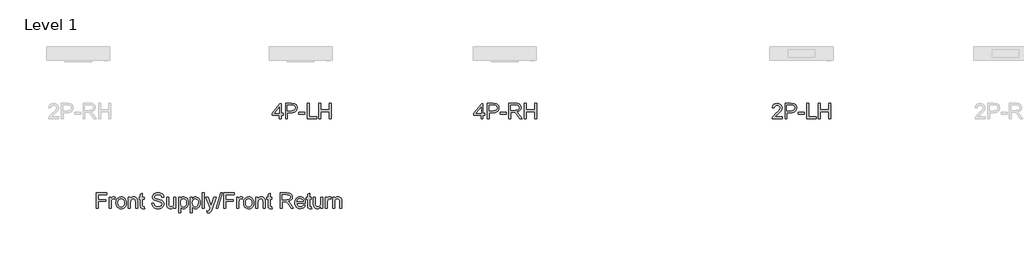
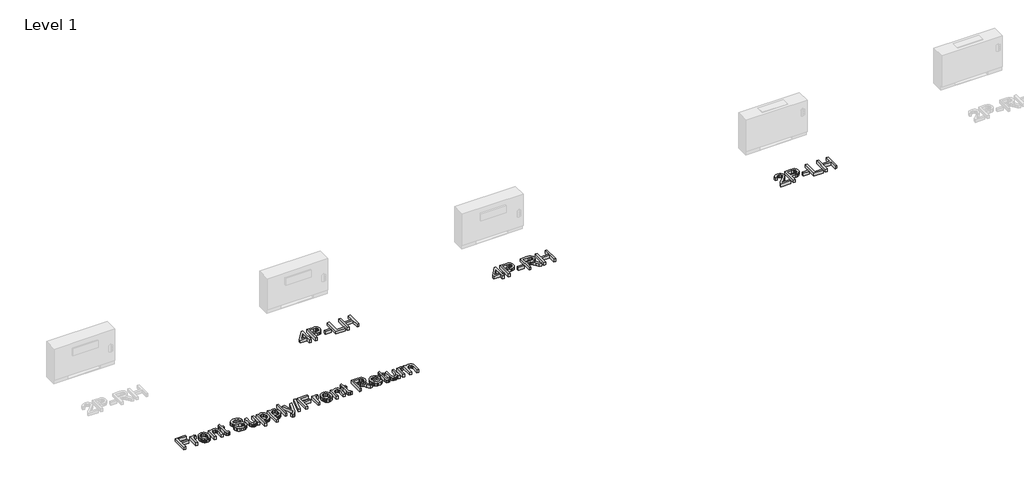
# One storey, part 2 of 3: 4 proxies.
"""IFC4 building model written with IfcOpenShell, lengths in millimetres."""

from ifc_helpers import new_model, si_unit, origin, origin_with_axes, place, context, project, spatial, polyline, outline, extrude, element, save

model = new_model("IFC4")

# Units and contexts
model_context = context("Model", 3, world=origin())
ifc_project = project(units=[si_unit("LENGTHUNIT", "METRE", prefix="MILLI")], contexts=[model_context])

# Site, building, storey
site = spatial("IfcSite", under=ifc_project)
building = spatial("IfcBuilding", under=site)
storey = spatial("IfcBuildingStorey", under=building, Name="Level 1", Elevation=0.0)

# Proxies
placement = place(None, origin())
element("IfcBuildingElementProxy", 1, Name="24\" Arial", ObjectType="24\" Arial", at=placement, inside=storey, context=model_context, shape_type="SweptSolid", body=[
    extrude(outline(polyline([(-12745.6761517, -2291.4337764), (-12745.6761517, -2231.6308793), (-12861.2950862, -2231.6308793), (-12861.2950862, -2199.7360008), (-12737.7024321, -2040.2616085), (-12713.7812732, -2040.2616085), (-12713.7812732, -2199.7360008), (-12681.8863947, -2199.7360008), (-12681.8863947, -2231.6308793), (-12713.7812732, -2231.6308793), (-12713.7812732, -2291.4337764), (-12745.6761517, -2291.4337764)]), holes=[polyline([(-12745.6761517, -2199.7360008), (-12745.6761517, -2101.1858099), (-12822.0494349, -2199.7360008), (-12745.6761517, -2199.7360008)])]), origin_with_axes(), (0.0, 0.0, 1.0), 50.8),
    extrude(outline(polyline([(-12642.0177967, -2291.4337764), (-12642.0177967, -2036.2747487), (-12547.4544656, -2036.2747487), (-12509.3301186, -2038.7042414), (-12492.3314566, -2043.2439665), (-12478.3385131, -2050.6336734), (-12467.070962, -2061.2081961), (-12458.2484773, -2075.3023685), (-12452.5485137, -2091.9272624), (-12450.6485258, -2110.0939498), (-12455.7800505, -2140.1667088), (-12471.1746244, -2165.2247456), (-12483.5031318, -2175.0906663), (-12499.9625555, -2182.1377525), (-12520.5528954, -2186.3660042), (-12545.2741516, -2187.7754214), (-12610.1229182, -2187.7754214), (-12610.1229182, -2291.4337764), (-12642.0177967, -2291.4337764)]), holes=[polyline([(-12610.1229182, -2155.8805429), (-12543.4053111, -2155.8805429), (-12515.1235243, -2152.9526928), (-12496.4351189, -2144.1691422), (-12486.016333, -2130.0749699), (-12482.5434043, -2111.2152541), (-12484.591342, -2096.8874767), (-12490.7351553, -2084.8023079), (-12500.2117342, -2075.707284), (-12512.2579688, -2070.3499411), (-12544.1528473, -2068.1696271), (-12610.1229182, -2068.1696271), (-12610.1229182, -2155.8805429)])]), origin_with_axes(), (0.0, 0.0, 1.0), 50.8),
    extrude(outline(polyline([(-12426.727367, -2215.6834401), (-12426.727367, -2183.7885616), (-12327.0558717, -2183.7885616), (-12327.0558717, -2215.6834401), (-12426.727367, -2215.6834401)])), origin_with_axes(), (0.0, 0.0, 1.0), 50.8),
    extrude(outline(polyline([(-12287.1872736, -2291.4337764), (-12287.1872736, -2036.2747487), (-12255.2923952, -2036.2747487), (-12255.2923952, -2259.538898), (-12127.7128813, -2259.538898), (-12127.7128813, -2291.4337764), (-12287.1872736, -2291.4337764)])), origin_with_axes(), (0.0, 0.0, 1.0), 50.8),
    extrude(outline(polyline([(-12091.831143, -2291.4337764), (-12091.831143, -2036.2747487), (-12059.9362645, -2036.2747487), (-12059.9362645, -2139.9331037), (-11924.383031, -2139.9331037), (-11924.383031, -2036.2747487), (-11892.4881526, -2036.2747487), (-11892.4881526, -2291.4337764), (-11924.383031, -2291.4337764), (-11924.383031, -2171.8279822), (-12059.9362645, -2171.8279822), (-12059.9362645, -2291.4337764), (-12091.831143, -2291.4337764)])), origin_with_axes(), (0.0, 0.0, 1.0), 50.8),
])
element("IfcBuildingElementProxy", 2, Name="24\" Arial", ObjectType="24\" Arial", at=placement, inside=storey, context=model_context, shape_type="SweptSolid", body=[
    extrude(outline(polyline([(-9428.2210372, -2291.4337764), (-9428.2210372, -2231.6308793), (-9543.8399717, -2231.6308793), (-9543.8399717, -2199.7360008), (-9420.2473176, -2040.2616085), (-9396.3261587, -2040.2616085), (-9396.3261587, -2199.7360008), (-9364.4312802, -2199.7360008), (-9364.4312802, -2231.6308793), (-9396.3261587, -2231.6308793), (-9396.3261587, -2291.4337764), (-9428.2210372, -2291.4337764)]), holes=[polyline([(-9428.2210372, -2199.7360008), (-9428.2210372, -2101.1858099), (-9504.5943204, -2199.7360008), (-9428.2210372, -2199.7360008)])]), origin_with_axes(), (0.0, 0.0, 1.0), 50.8),
    extrude(outline(polyline([(-9324.5626822, -2291.4337764), (-9324.5626822, -2036.2747487), (-9229.9993511, -2036.2747487), (-9191.8750041, -2038.7042414), (-9174.8763421, -2043.2439665), (-9160.8833986, -2050.6336734), (-9149.6158475, -2061.2081961), (-9140.7933628, -2075.3023685), (-9135.0933992, -2091.9272624), (-9133.1934113, -2110.0939498), (-9138.324936, -2140.1667088), (-9153.7195099, -2165.2247456), (-9166.0480173, -2175.0906663), (-9182.507441, -2182.1377525), (-9203.0977809, -2186.3660042), (-9227.8190371, -2187.7754214), (-9292.6678037, -2187.7754214), (-9292.6678037, -2291.4337764), (-9324.5626822, -2291.4337764)]), holes=[polyline([(-9292.6678037, -2155.8805429), (-9225.9501966, -2155.8805429), (-9197.6684098, -2152.9526928), (-9178.9800044, -2144.1691422), (-9168.5612185, -2130.0749699), (-9165.0882898, -2111.2152541), (-9167.1362275, -2096.8874767), (-9173.2800408, -2084.8023079), (-9182.7566197, -2075.707284), (-9194.8028543, -2070.3499411), (-9226.6977328, -2068.1696271), (-9292.6678037, -2068.1696271), (-9292.6678037, -2155.8805429)])]), origin_with_axes(), (0.0, 0.0, 1.0), 50.8),
    extrude(outline(polyline([(-9109.2722525, -2215.6834401), (-9109.2722525, -2183.7885616), (-9009.6007572, -2183.7885616), (-9009.6007572, -2215.6834401), (-9109.2722525, -2215.6834401)])), origin_with_axes(), (0.0, 0.0, 1.0), 50.8),
    extrude(outline(polyline([(-8969.7321591, -2291.4337764), (-8969.7321591, -2036.2747487), (-8859.782041, -2036.2747487), (-8830.231, -2037.9956393), (-8808.731547, -2043.1583113), (-8793.0177128, -2052.689398), (-8780.8235284, -2067.5155329), (-8772.9977586, -2085.9002517), (-8770.3891687, -2106.10709), (-8774.7108624, -2131.2429952), (-8787.6759436, -2152.0805672), (-8809.6737541, -2167.3583385), (-8841.0936356, -2175.814842), (-8822.9658824, -2189.4573779), (-8797.1135884, -2222.2866766), (-8754.5663188, -2291.4337764), (-8791.6316561, -2291.4337764), (-8824.834723, -2238.5455893), (-8848.8181765, -2203.5359766), (-8865.6688887, -2186.9967378), (-8880.8376443, -2180.9230061), (-8899.3391656, -2179.8017018), (-8937.8372807, -2179.8017018), (-8937.8372807, -2291.4337764), (-8969.7321591, -2291.4337764)]), holes=[polyline([(-8937.8372807, -2147.9068233), (-8866.4475722, -2147.9068233), (-8830.0363291, -2143.3904587), (-8818.060176, -2137.5191847), (-8809.3544939, -2128.9380919), (-8804.0516588, -2118.5582401), (-8802.2840472, -2107.290689), (-8805.655747, -2091.7325915), (-8815.7708464, -2079.1957863), (-8833.1744239, -2070.9261669), (-8858.4115579, -2068.1696271), (-8937.8372807, -2068.1696271), (-8937.8372807, -2147.9068233)])]), origin_with_axes(), (0.0, 0.0, 1.0), 50.8),
    extrude(outline(polyline([(-8714.5731314, -2291.4337764), (-8714.5731314, -2036.2747487), (-8682.6782529, -2036.2747487), (-8682.6782529, -2139.9331037), (-8547.1250194, -2139.9331037), (-8547.1250194, -2036.2747487), (-8515.2301409, -2036.2747487), (-8515.2301409, -2291.4337764), (-8547.1250194, -2291.4337764), (-8547.1250194, -2171.8279822), (-8682.6782529, -2171.8279822), (-8682.6782529, -2291.4337764), (-8714.5731314, -2291.4337764)])), origin_with_axes(), (0.0, 0.0, 1.0), 50.8),
])
element("IfcBuildingElementProxy", 3, Name="24\" Arial", ObjectType="24\" Arial", at=placement, inside=storey, context=model_context, shape_type="SweptSolid", body=[
    extrude(outline(polyline([(-4475.5589267, -2259.538898), (-4475.5589267, -2291.4337764), (-4643.0070387, -2291.4337764), (-4639.5808311, -2269.4437528), (-4631.7161271, -2252.2582067), (-4620.2071842, -2235.5865918), (-4580.2762914, -2198.6146965), (-4545.8584782, -2168.0435801), (-4525.2077903, -2145.4773306), (-4514.8824463, -2127.1626934), (-4511.440665, -2109.3464136), (-4514.6877754, -2093.3756138), (-4524.4291067, -2080.0990592), (-4539.4031915, -2071.1519851), (-4558.3485625, -2068.1696271), (-4578.2439273, -2071.0819036), (-4593.7007959, -2079.8187331), (-4603.6757323, -2093.6948741), (-4607.1253004, -2112.025085), (-4639.0201789, -2108.0382252), (-4631.2878512, -2077.1867827), (-4614.5695152, -2054.6516806), (-4589.7372966, -2040.8689816), (-4557.6633209, -2036.2747487), (-4525.3557402, -2041.3829128), (-4500.5702426, -2056.7074052), (-4484.8019005, -2079.6007017), (-4479.5457865, -2107.4152784), (-4485.2146028, -2137.6593477), (-4504.0587449, -2168.9312793), (-4549.751896, -2212.6310005), (-4586.4434652, -2243.3111326), (-4600.8335373, -2259.538898), (-4475.5589267, -2259.538898)])), origin_with_axes(), (0.0, 0.0, 1.0), 50.8),
    extrude(outline(polyline([(-4431.7034688, -2291.4337764), (-4431.7034688, -2036.2747487), (-4337.1401377, -2036.2747487), (-4299.0157908, -2038.7042414), (-4282.0171288, -2043.2439665), (-4268.0241853, -2050.6336734), (-4256.7566342, -2061.2081961), (-4247.9341495, -2075.3023685), (-4242.2341859, -2091.9272624), (-4240.334198, -2110.0939498), (-4245.4657226, -2140.1667088), (-4260.8602965, -2165.2247456), (-4273.188804, -2175.0906663), (-4289.6482276, -2182.1377525), (-4310.2385676, -2186.3660042), (-4334.9598238, -2187.7754214), (-4399.8085904, -2187.7754214), (-4399.8085904, -2291.4337764), (-4431.7034688, -2291.4337764)]), holes=[polyline([(-4399.8085904, -2155.8805429), (-4333.0909832, -2155.8805429), (-4304.8091965, -2152.9526928), (-4286.1207911, -2144.1691422), (-4275.7020051, -2130.0749699), (-4272.2290765, -2111.2152541), (-4274.2770142, -2096.8874767), (-4280.4208275, -2084.8023079), (-4289.8974064, -2075.707284), (-4301.943641, -2070.3499411), (-4333.8385195, -2068.1696271), (-4399.8085904, -2068.1696271), (-4399.8085904, -2155.8805429)])]), origin_with_axes(), (0.0, 0.0, 1.0), 50.8),
    extrude(outline(polyline([(-4216.4130391, -2215.6834401), (-4216.4130391, -2183.7885616), (-4116.7415439, -2183.7885616), (-4116.7415439, -2215.6834401), (-4216.4130391, -2215.6834401)])), origin_with_axes(), (0.0, 0.0, 1.0), 50.8),
    extrude(outline(polyline([(-4076.8729458, -2291.4337764), (-4076.8729458, -2036.2747487), (-4044.9780674, -2036.2747487), (-4044.9780674, -2259.538898), (-3917.3985535, -2259.538898), (-3917.3985535, -2291.4337764), (-4076.8729458, -2291.4337764)])), origin_with_axes(), (0.0, 0.0, 1.0), 50.8),
    extrude(outline(polyline([(-3881.5168152, -2291.4337764), (-3881.5168152, -2036.2747487), (-3849.6219367, -2036.2747487), (-3849.6219367, -2139.9331037), (-3714.0687032, -2139.9331037), (-3714.0687032, -2036.2747487), (-3682.1738247, -2036.2747487), (-3682.1738247, -2291.4337764), (-3714.0687032, -2291.4337764), (-3714.0687032, -2171.8279822), (-3849.6219367, -2171.8279822), (-3849.6219367, -2291.4337764), (-3881.5168152, -2291.4337764)])), origin_with_axes(), (0.0, 0.0, 1.0), 50.8),
])
element("IfcBuildingElementProxy", 4, Name="24\" Arial", ObjectType="24\" Arial", at=placement, inside=storey, context=model_context, shape_type="SweptSolid", body=[
    extrude(outline(polyline([(-15751.2981561, -3763.7936295), (-15751.2981561, -3508.6346017), (-15579.8631843, -3508.6346017), (-15579.8631843, -3540.5294801), (-15719.4032777, -3540.5294801), (-15719.4032777, -3616.2798165), (-15599.7974834, -3616.2798165), (-15599.7974834, -3648.174695), (-15719.4032777, -3648.174695), (-15719.4032777, -3763.7936295), (-15751.2981561, -3763.7936295)])), origin_with_axes(), (0.0, 0.0, 1.0), 50.8),
    extrude(outline(polyline([(-15539.9945863, -3763.7936295), (-15539.9945863, -3576.4112184), (-15512.0865676, -3576.4112184), (-15512.0865676, -3604.132353), (-15501.7767973, -3588.0603244), (-15492.2768579, -3578.5915324), (-15482.7457712, -3573.9661521), (-15472.3425589, -3572.4243586), (-15456.4574143, -3574.8849987), (-15440.323091, -3582.2669188), (-15450.9754821, -3610.860179), (-15473.4015685, -3604.3192371), (-15482.9248684, -3605.8921779), (-15491.4358797, -3610.6110002), (-15498.3116555, -3618.1175097), (-15502.929249, -3628.0535119), (-15508.0997078, -3665.3057332), (-15508.0997078, -3763.7936295), (-15539.9945863, -3763.7936295)])), origin_with_axes(), (0.0, 0.0, 1.0), 50.8),
    extrude(outline(polyline([(-15428.3625116, -3670.1024239), (-15426.6377275, -3645.8347509), (-15421.4633753, -3624.923204), (-15412.8394549, -3607.3677832), (-15400.7659664, -3593.1684886), (-15375.1939984, -3577.6103911), (-15344.5761609, -3572.4243586), (-15326.9798593, -3574.0031395), (-15311.0694075, -3578.7394823), (-15296.8448056, -3586.6333868), (-15284.3060537, -3597.6848532), (-15274.072205, -3611.5201133), (-15266.7623131, -3627.765399), (-15262.376378, -3646.4207103), (-15260.9143996, -3667.4860472), (-15263.499629, -3699.7079728), (-15271.2553172, -3724.2365048), (-15283.9556461, -3742.6056499), (-15301.3747972, -3756.3494147), (-15322.0644193, -3764.9227206), (-15344.5761609, -3767.7804893), (-15362.4294282, -3766.2075485), (-15378.4878298, -3761.4887261), (-15392.7513659, -3753.6240222), (-15405.2200363, -3742.6134367), (-15415.3448692, -3728.6438537), (-15422.5768928, -3711.9021573), (-15426.9161069, -3692.3883473), (-15428.3625116, -3670.1024239)]), holes=[polyline([(-15396.4676331, -3670.0401293), (-15392.7766731, -3698.9059287), (-15381.7037929, -3719.4709614), (-15365.0399648, -3731.7819484), (-15344.5761609, -3735.8856108), (-15324.2057991, -3731.7585879), (-15307.5731183, -3719.3775194), (-15296.5002381, -3698.5399474), (-15292.8092781, -3669.0434143), (-15296.5235987, -3641.0185931), (-15307.6665603, -3620.7338865), (-15324.3226016, -3608.4228994), (-15344.5761609, -3604.3192371), (-15365.0399648, -3608.4073258), (-15381.7037929, -3620.6715918), (-15392.7766731, -3641.1899035), (-15396.4676331, -3670.0401293)])]), origin_with_axes(), (0.0, 0.0, 1.0), 50.8),
    extrude(outline(polyline([(-15225.0326613, -3763.7936295), (-15225.0326613, -3576.4112184), (-15193.1377829, -3576.4112184), (-15193.1377829, -3602.5749859), (-15182.0571159, -3589.3840865), (-15168.7494139, -3579.9620154), (-15153.2146769, -3574.3087728), (-15135.452905, -3572.4243586), (-15119.731284, -3573.9427916), (-15105.333425, -3578.4980904), (-15093.3261246, -3585.521816), (-15084.7761791, -3594.4455296), (-15075.2139451, -3617.8994783), (-15073.5319886, -3648.7353472), (-15073.5319886, -3763.7936295), (-15105.4268671, -3763.7936295), (-15105.4268671, -3653.0336804), (-15109.1022535, -3624.8141883), (-15114.1870571, -3616.4121927), (-15122.0906952, -3609.8946114), (-15143.9872768, -3604.3192371), (-15162.6678953, -3607.449545), (-15178.591974, -3616.8404687), (-15189.5013307, -3634.9837955), (-15193.1377829, -3664.371313), (-15193.1377829, -3763.7936295), (-15225.0326613, -3763.7936295)])), origin_with_axes(), (0.0, 0.0, 1.0), 50.8),
    extrude(outline(polyline([(-14961.8999139, -3737.1937992), (-14957.9130541, -3764.7280497), (-14981.7719183, -3767.7804893), (-14997.080837, -3766.4567272), (-15008.496338, -3762.4854411), (-15021.8274004, -3748.5937264), (-15025.6896709, -3712.4005147), (-15025.6896709, -3608.3060969), (-15049.6108297, -3608.3060969), (-15049.6108297, -3576.4112184), (-15025.6896709, -3576.4112184), (-15025.6896709, -3530.873804), (-14993.7947924, -3512.123104), (-14993.7947924, -3576.4112184), (-14961.8999139, -3576.4112184), (-14961.8999139, -3608.3060969), (-14993.7947924, -3608.3060969), (-14993.7947924, -3711.4660945), (-14992.1128359, -3727.9118912), (-14986.662051, -3733.7364442), (-14975.7916286, -3735.8856108), (-14961.8999139, -3737.1937992)])), origin_with_axes(), (0.0, 0.0, 1.0), 50.8),
    extrude(outline(polyline([(-14838.3072599, -3676.0827137), (-14806.4123814, -3676.0827137), (-14802.7525687, -3693.7821909), (-14796.1337584, -3708.0087395), (-14785.8084145, -3719.299651), (-14771.0290006, -3728.1922173), (-14752.9635421, -3733.9622624), (-14732.7800643, -3735.8856108), (-14715.0105055, -3734.4294725), (-14699.4524081, -3730.0610578), (-14686.8455213, -3723.1463478), (-14677.9295946, -3714.0513239), (-14672.6267595, -3703.6091774), (-14670.8591479, -3692.6530997), (-14676.1541961, -3672.749948), (-14684.2213577, -3664.8774573), (-14697.8327463, -3658.2664339), (-14744.2734336, -3646.0878231), (-14794.2649179, -3630.3584152), (-14810.1422756, -3619.6281558), (-14821.394253, -3606.6241404), (-14828.0987184, -3591.6266951), (-14830.3335402, -3574.916146), (-14827.5692136, -3556.2355275), (-14819.2762337, -3538.8163763), (-14805.672632, -3524.0525361), (-14786.9764398, -3513.3378504), (-14764.5347797, -3506.820269), (-14739.6947743, -3504.6477419), (-14712.7834706, -3506.9214978), (-14689.2360798, -3513.7427658), (-14669.8935803, -3524.9713827), (-14655.5969502, -3540.4671855), (-14646.5486472, -3559.2646065), (-14642.9511292, -3580.3980782), (-14674.8460077, -3580.3980782), (-14680.701708, -3561.3670521), (-14692.9114662, -3547.6310742), (-14711.9892133, -3539.3147338), (-14738.4488806, -3536.5426203), (-14765.5314947, -3539.2835865), (-14784.1108843, -3547.5064848), (-14794.8567174, -3559.6072273), (-14798.4386618, -3573.9817257), (-14795.9001534, -3586.2382049), (-14788.2846282, -3596.0963387), (-14770.2814644, -3604.9110366), (-14736.2062719, -3613.9126185), (-14679.7672878, -3629.9223524), (-14661.5850267, -3641.4935901), (-14648.9002716, -3655.7746465), (-14641.4482699, -3672.609785), (-14638.9642694, -3691.8432688), (-14641.8220381, -3711.5050286), (-14650.395344, -3729.9987631), (-14664.3337797, -3745.915055), (-14683.2869374, -3757.8444871), (-14706.0790051, -3765.2964887), (-14731.5341706, -3767.7804893), (-14762.7827417, -3765.1018178), (-14788.5026596, -3757.0658035), (-14808.989824, -3743.641299), (-14824.5401346, -3724.7971569), (-14834.5228578, -3701.8415657), (-14838.3072599, -3676.0827137)])), origin_with_axes(), (0.0, 0.0, 1.0), 50.8),
    extrude(outline(polyline([(-14475.5030172, -3763.7936295), (-14475.5030172, -3731.5872776), (-14487.0431075, -3747.4218077), (-14500.4831857, -3758.7321863), (-14515.8232518, -3765.5184135), (-14533.0633057, -3767.7804893), (-14548.5980427, -3766.1919748), (-14563.0581963, -3761.4264314), (-14575.1900861, -3754.2625427), (-14583.7400316, -3745.4789922), (-14593.239971, -3721.9938961), (-14595.1088115, -3692.3416263), (-14595.1088115, -3576.4112184), (-14563.213933, -3576.4112184), (-14563.213933, -3677.3286073), (-14561.2827978, -3709.8464327), (-14556.634057, -3720.6934946), (-14548.6681242, -3728.9397535), (-14537.9145043, -3734.1491465), (-14524.9027021, -3735.8856108), (-14511.1433636, -3734.1102123), (-14498.2717244, -3728.7840168), (-14487.6582675, -3720.3975949), (-14480.673476, -3709.4415172), (-14476.7956319, -3694.4362851), (-14475.5030172, -3673.9023997), (-14475.5030172, -3576.4112184), (-14443.6081388, -3576.4112184), (-14443.6081388, -3763.7936295), (-14475.5030172, -3763.7936295)])), origin_with_axes(), (0.0, 0.0, 1.0), 50.8),
    extrude(outline(polyline([(-14399.7526809, -3835.557106), (-14399.7526809, -3576.4112184), (-14367.8578024, -3576.4112184), (-14367.8578024, -3607.6831501), (-14357.4545901, -3592.2574288), (-14345.8054841, -3581.2390565), (-14332.2252428, -3574.6280331), (-14316.0286249, -3572.4243586), (-14294.4590904, -3575.5079455), (-14275.5993746, -3584.7587062), (-14260.2437349, -3599.6159884), (-14249.1864284, -3619.5191401), (-14242.5053235, -3643.0198098), (-14240.2782885, -3668.6696462), (-14242.7934364, -3695.9469312), (-14250.33888, -3720.343087), (-14262.6732276, -3740.6200068), (-14279.5550871, -3755.5395838), (-14299.2168469, -3764.7202629), (-14319.8908953, -3767.7804893), (-14334.5535067, -3765.7325515), (-14347.6431773, -3759.5887382), (-14367.8578024, -3738.8757556), (-14367.8578024, -3835.557106), (-14399.7526809, -3835.557106)]), holes=[polyline([(-14367.8578024, -3671.5974964), (-14364.4082342, -3700.1907566), (-14354.0595298, -3720.1873503), (-14338.7895452, -3731.9610457), (-14320.5761368, -3735.8856108), (-14302.0668287, -3731.8208826), (-14286.4075024, -3719.6266981), (-14275.7317508, -3698.8981419), (-14272.173167, -3669.2302984), (-14275.6460956, -3640.7927749), (-14286.0648816, -3620.5158551), (-14301.3115057, -3608.3683916), (-14319.2679485, -3604.3192371), (-14337.2944728, -3608.6253572), (-14353.1251095, -3621.5437174), (-14364.1746292, -3642.6694022), (-14367.8578024, -3671.5974964)])]), origin_with_axes(), (0.0, 0.0, 1.0), 50.8),
    extrude(outline(polyline([(-14204.3965502, -3835.557106), (-14204.3965502, -3576.4112184), (-14172.5016717, -3576.4112184), (-14172.5016717, -3607.6831501), (-14162.0984594, -3592.2574288), (-14150.4493534, -3581.2390565), (-14136.8691122, -3574.6280331), (-14120.6724942, -3572.4243586), (-14099.1029597, -3575.5079455), (-14080.243244, -3584.7587062), (-14064.8876042, -3599.6159884), (-14053.8302977, -3619.5191401), (-14047.1491928, -3643.0198098), (-14044.9221579, -3668.6696462), (-14047.4373057, -3695.9469312), (-14054.9827494, -3720.343087), (-14067.3170969, -3740.6200068), (-14084.1989564, -3755.5395838), (-14103.8607162, -3764.7202629), (-14124.5347647, -3767.7804893), (-14139.197376, -3765.7325515), (-14152.2870466, -3759.5887382), (-14172.5016717, -3738.8757556), (-14172.5016717, -3835.557106), (-14204.3965502, -3835.557106)]), holes=[polyline([(-14172.5016717, -3671.5974964), (-14169.0521036, -3700.1907566), (-14158.7033991, -3720.1873503), (-14143.4334146, -3731.9610457), (-14125.2200062, -3735.8856108), (-14106.7106981, -3731.8208826), (-14091.0513717, -3719.6266981), (-14080.3756202, -3698.8981419), (-14076.8170363, -3669.2302984), (-14080.289965, -3640.7927749), (-14090.708751, -3620.5158551), (-14105.955375, -3608.3683916), (-14123.9118178, -3604.3192371), (-14141.9383422, -3608.6253572), (-14157.7689789, -3621.5437174), (-14168.8184985, -3642.6694022), (-14172.5016717, -3671.5974964)])]), origin_with_axes(), (0.0, 0.0, 1.0), 50.8),
    extrude(outline(polyline([(-14009.0404196, -3763.7936295), (-14009.0404196, -3508.6346017), (-13977.1455411, -3508.6346017), (-13977.1455411, -3763.7936295), (-14009.0404196, -3763.7936295)])), origin_with_axes(), (0.0, 0.0, 1.0), 50.8),
    extrude(outline(polyline([(-13929.3032234, -3835.557106), (-13933.2900832, -3804.8458265), (-13917.0934652, -3807.6490874), (-13901.9558569, -3804.1294377), (-13892.6739489, -3794.3180249), (-13883.9526931, -3770.8329288), (-13881.4609057, -3763.1083879), (-13949.2375224, -3576.4112184), (-13915.5983928, -3576.4112184), (-13879.6543598, -3680.4433416), (-13867.1331282, -3722.0561908), (-13854.6118967, -3685.302327), (-13817.6711487, -3576.4112184), (-13784.2811978, -3576.4112184), (-13849.5037325, -3768.2788467), (-13866.4478867, -3809.891696), (-13875.1224215, -3823.1760375), (-13884.949408, -3832.3800771), (-13896.364909, -3837.7529936), (-13909.8049871, -3839.5439658), (-13929.3032234, -3835.557106)])), origin_with_axes(), (0.0, 0.0, 1.0), 50.8),
    extrude(outline(polyline([(-13781.7894105, -3763.7936295), (-13710.0259339, -3508.6346017), (-13681.2457896, -3508.6346017), (-13753.0092662, -3763.7936295), (-13781.7894105, -3763.7936295)])), origin_with_axes(), (0.0, 0.0, 1.0), 50.8),
    extrude(outline(polyline([(-13654.2098966, -3763.7936295), (-13654.2098966, -3508.6346017), (-13482.7749248, -3508.6346017), (-13482.7749248, -3540.5294801), (-13622.3150181, -3540.5294801), (-13622.3150181, -3616.2798165), (-13502.7092238, -3616.2798165), (-13502.7092238, -3648.174695), (-13622.3150181, -3648.174695), (-13622.3150181, -3763.7936295), (-13654.2098966, -3763.7936295)])), origin_with_axes(), (0.0, 0.0, 1.0), 50.8),
    extrude(outline(polyline([(-13442.9063267, -3763.7936295), (-13442.9063267, -3576.4112184), (-13414.998308, -3576.4112184), (-13414.998308, -3604.132353), (-13404.6885377, -3588.0603244), (-13395.1885983, -3578.5915324), (-13385.6575116, -3573.9661521), (-13375.2542993, -3572.4243586), (-13359.3691547, -3574.8849987), (-13343.2348315, -3582.2669188), (-13353.8872225, -3610.860179), (-13376.3133089, -3604.3192371), (-13385.8366088, -3605.8921779), (-13394.3476201, -3610.6110002), (-13401.2233959, -3618.1175097), (-13405.8409894, -3628.0535119), (-13411.0114482, -3665.3057332), (-13411.0114482, -3763.7936295), (-13442.9063267, -3763.7936295)])), origin_with_axes(), (0.0, 0.0, 1.0), 50.8),
    extrude(outline(polyline([(-13331.274252, -3670.1024239), (-13329.549468, -3645.8347509), (-13324.3751157, -3624.923204), (-13315.7511953, -3607.3677832), (-13303.6777068, -3593.1684886), (-13278.1057388, -3577.6103911), (-13247.4879014, -3572.4243586), (-13229.8915997, -3574.0031395), (-13213.9811479, -3578.7394823), (-13199.7565461, -3586.6333868), (-13187.2177941, -3597.6848532), (-13176.9839454, -3611.5201133), (-13169.6740536, -3627.765399), (-13165.2881184, -3646.4207103), (-13163.8261401, -3667.4860472), (-13166.4113695, -3699.7079728), (-13174.1670577, -3724.2365048), (-13186.8673865, -3742.6056499), (-13204.2865376, -3756.3494147), (-13224.9761597, -3764.9227206), (-13247.4879014, -3767.7804893), (-13265.3411686, -3766.2075485), (-13281.3995702, -3761.4887261), (-13295.6631063, -3753.6240222), (-13308.1317767, -3742.6134367), (-13318.2566097, -3728.6438537), (-13325.4886332, -3711.9021573), (-13329.8278473, -3692.3883473), (-13331.274252, -3670.1024239)]), holes=[polyline([(-13299.3793736, -3670.0401293), (-13295.6884135, -3698.9059287), (-13284.6155333, -3719.4709614), (-13267.9517052, -3731.7819484), (-13247.4879014, -3735.8856108), (-13227.1175395, -3731.7585879), (-13210.4848588, -3719.3775194), (-13199.4119786, -3698.5399474), (-13195.7210185, -3669.0434143), (-13199.4353391, -3641.0185931), (-13210.5783008, -3620.7338865), (-13227.2343421, -3608.4228994), (-13247.4879014, -3604.3192371), (-13267.9517052, -3608.4073258), (-13284.6155333, -3620.6715918), (-13295.6884135, -3641.1899035), (-13299.3793736, -3670.0401293)])]), origin_with_axes(), (0.0, 0.0, 1.0), 50.8),
    extrude(outline(polyline([(-13127.9444018, -3763.7936295), (-13127.9444018, -3576.4112184), (-13096.0495233, -3576.4112184), (-13096.0495233, -3602.5749859), (-13084.9688563, -3589.3840865), (-13071.6611543, -3579.9620154), (-13056.1264174, -3574.3087728), (-13038.3646454, -3572.4243586), (-13022.6430244, -3573.9427916), (-13008.2451655, -3578.4980904), (-12996.237865, -3585.521816), (-12987.6879196, -3594.4455296), (-12978.1256855, -3617.8994783), (-12976.443729, -3648.7353472), (-12976.443729, -3763.7936295), (-13008.3386075, -3763.7936295), (-13008.3386075, -3653.0336804), (-13012.0139939, -3624.8141883), (-13017.0987975, -3616.4121927), (-13025.0024356, -3609.8946114), (-13046.8990172, -3604.3192371), (-13065.5796357, -3607.449545), (-13081.5037145, -3616.8404687), (-13092.4130711, -3634.9837955), (-13096.0495233, -3664.371313), (-13096.0495233, -3763.7936295), (-13127.9444018, -3763.7936295)])), origin_with_axes(), (0.0, 0.0, 1.0), 50.8),
    extrude(outline(polyline([(-12864.8116544, -3737.1937992), (-12860.8247946, -3764.7280497), (-12884.6836587, -3767.7804893), (-12899.9925775, -3766.4567272), (-12911.4080784, -3762.4854411), (-12924.7391409, -3748.5937264), (-12928.6014113, -3712.4005147), (-12928.6014113, -3608.3060969), (-12952.5225702, -3608.3060969), (-12952.5225702, -3576.4112184), (-12928.6014113, -3576.4112184), (-12928.6014113, -3530.873804), (-12896.7065328, -3512.123104), (-12896.7065328, -3576.4112184), (-12864.8116544, -3576.4112184), (-12864.8116544, -3608.3060969), (-12896.7065328, -3608.3060969), (-12896.7065328, -3711.4660945), (-12895.0245764, -3727.9118912), (-12889.5737915, -3733.7364442), (-12878.703369, -3735.8856108), (-12864.8116544, -3737.1937992)])), origin_with_axes(), (0.0, 0.0, 1.0), 50.8),
    extrude(outline(polyline([(-12729.2584209, -3763.7936295), (-12729.2584209, -3508.6346017), (-12619.3083027, -3508.6346017), (-12589.7572617, -3510.3554923), (-12568.2578087, -3515.5181643), (-12552.5439746, -3525.049251), (-12540.3497901, -3539.875386), (-12532.5240203, -3558.2601047), (-12529.9154304, -3578.466943), (-12534.2371241, -3603.6028482), (-12547.2022054, -3624.4404202), (-12569.2000158, -3639.7181916), (-12600.6198973, -3648.174695), (-12582.4921441, -3661.8172309), (-12556.6398501, -3694.6465296), (-12514.0925805, -3763.7936295), (-12551.1579178, -3763.7936295), (-12584.3609847, -3710.9054423), (-12608.3444382, -3675.8958296), (-12625.1951504, -3659.3565909), (-12640.3639061, -3653.2828591), (-12658.8654274, -3652.1615548), (-12697.3635424, -3652.1615548), (-12697.3635424, -3763.7936295), (-12729.2584209, -3763.7936295)]), holes=[polyline([(-12697.3635424, -3620.2666763), (-12625.9738339, -3620.2666763), (-12589.5625908, -3615.7503117), (-12577.5864377, -3609.8790377), (-12568.8807556, -3601.2979449), (-12563.5779206, -3590.9180931), (-12561.8103089, -3579.650542), (-12565.1820087, -3564.0924446), (-12575.2971081, -3551.5556393), (-12592.7006856, -3543.2860199), (-12617.9378196, -3540.5294801), (-12697.3635424, -3540.5294801), (-12697.3635424, -3620.2666763)])]), origin_with_axes(), (0.0, 0.0, 1.0), 50.8),
    extrude(outline(polyline([(-12346.8936473, -3707.9775921), (-12315.6217157, -3711.9644519), (-12326.8892667, -3735.5274164), (-12344.8690701, -3753.1412384), (-12369.1562102, -3764.1206765), (-12399.3457717, -3767.7804893), (-12419.1360143, -3766.2017084), (-12436.7693034, -3761.4653656), (-12452.2456391, -3753.5714611), (-12465.5650213, -3742.5199947), (-12476.2758136, -3728.6185465), (-12483.9263796, -3712.1746965), (-12488.5167191, -3693.1884447), (-12490.0468323, -3671.6597911), (-12488.5011455, -3649.4011216), (-12483.8640849, -3629.7821894), (-12476.1356506, -3612.8029944), (-12465.3158426, -3598.4635367), (-12452.0315011, -3587.0713963), (-12436.9094664, -3578.9341532), (-12419.9497386, -3574.0518073), (-12401.1523175, -3572.4243586), (-12382.9603229, -3574.0479138), (-12366.5086861, -3578.9185795), (-12351.797407, -3587.0363556), (-12338.8264857, -3598.4012421), (-12328.238336, -3612.7095524), (-12320.675372, -3629.6576), (-12316.1375935, -3649.2453849), (-12314.6250007, -3671.472907), (-12314.8118848, -3680.0695735), (-12458.1519538, -3680.0695735), (-12452.6310874, -3703.9440113), (-12439.8061693, -3721.4955387), (-12421.2968611, -3732.2880928), (-12398.7228248, -3735.8856108), (-12381.7475233, -3734.219228), (-12367.4508932, -3729.2200795), (-12355.8329345, -3720.5766921), (-12346.8936473, -3707.9775921)]), holes=[polyline([(-12458.1519538, -3648.174695), (-12346.5198792, -3648.174695), (-12350.8337861, -3631.3239828), (-12359.2902895, -3619.2699614), (-12377.8852528, -3608.0569182), (-12401.2769069, -3604.3192371), (-12422.7763599, -3607.3015951), (-12440.5537055, -3616.2486692), (-12452.9114135, -3630.1948917), (-12458.1519538, -3648.174695)])]), origin_with_axes(), (0.0, 0.0, 1.0), 50.8),
    extrude(outline(polyline([(-12214.9535055, -3737.1937992), (-12210.9666457, -3764.7280497), (-12234.8255099, -3767.7804893), (-12250.1344286, -3766.4567272), (-12261.5499295, -3762.4854411), (-12274.880992, -3748.5937264), (-12278.7432624, -3712.4005147), (-12278.7432624, -3608.3060969), (-12302.6644213, -3608.3060969), (-12302.6644213, -3576.4112184), (-12278.7432624, -3576.4112184), (-12278.7432624, -3530.873804), (-12246.848384, -3512.123104), (-12246.848384, -3576.4112184), (-12214.9535055, -3576.4112184), (-12214.9535055, -3608.3060969), (-12246.848384, -3608.3060969), (-12246.848384, -3711.4660945), (-12245.1664275, -3727.9118912), (-12239.7156426, -3733.7364442), (-12228.8452201, -3735.8856108), (-12214.9535055, -3737.1937992)])), origin_with_axes(), (0.0, 0.0, 1.0), 50.8),
    extrude(outline(polyline([(-12063.4528327, -3763.7936295), (-12063.4528327, -3731.5872776), (-12074.9929231, -3747.4218077), (-12088.4330012, -3758.7321863), (-12103.7730673, -3765.5184135), (-12121.0131212, -3767.7804893), (-12136.5478582, -3766.1919748), (-12151.0080118, -3761.4264314), (-12163.1399016, -3754.2625427), (-12171.6898471, -3745.4789922), (-12181.1897865, -3721.9938961), (-12183.058627, -3692.3416263), (-12183.058627, -3576.4112184), (-12151.1637485, -3576.4112184), (-12151.1637485, -3677.3286073), (-12149.2326133, -3709.8464327), (-12144.5838725, -3720.6934946), (-12136.6179397, -3728.9397535), (-12125.8643198, -3734.1491465), (-12112.8525176, -3735.8856108), (-12099.0931791, -3734.1102123), (-12086.2215399, -3728.7840168), (-12075.6080831, -3720.3975949), (-12068.6232916, -3709.4415172), (-12064.7454475, -3694.4362851), (-12063.4528327, -3673.9023997), (-12063.4528327, -3576.4112184), (-12031.5579543, -3576.4112184), (-12031.5579543, -3763.7936295), (-12063.4528327, -3763.7936295)])), origin_with_axes(), (0.0, 0.0, 1.0), 50.8),
    extrude(outline(polyline([(-11987.7024964, -3763.7936295), (-11987.7024964, -3576.4112184), (-11959.7944777, -3576.4112184), (-11959.7944777, -3604.132353), (-11949.4847074, -3588.0603244), (-11939.984768, -3578.5915324), (-11930.4536813, -3573.9661521), (-11920.050469, -3572.4243586), (-11904.1653244, -3574.8849987), (-11888.0310012, -3582.2669188), (-11898.6833922, -3610.860179), (-11921.1094786, -3604.3192371), (-11930.6327785, -3605.8921779), (-11939.1437898, -3610.6110002), (-11946.0195656, -3618.1175097), (-11950.6371591, -3628.0535119), (-11955.8076179, -3665.3057332), (-11955.8076179, -3763.7936295), (-11987.7024964, -3763.7936295)])), origin_with_axes(), (0.0, 0.0, 1.0), 50.8),
    extrude(outline(polyline([(-11868.0967021, -3763.7936295), (-11868.0967021, -3576.4112184), (-11836.2018236, -3576.4112184), (-11836.2018236, -3602.5749859), (-11825.1211566, -3589.3840865), (-11811.8134546, -3579.9620154), (-11796.2787177, -3574.3087728), (-11778.5169458, -3572.4243586), (-11762.7953248, -3573.9427916), (-11748.3974658, -3578.4980904), (-11736.3901654, -3585.521816), (-11727.8402199, -3594.4455296), (-11718.2779858, -3617.8994783), (-11716.5960294, -3648.7353472), (-11716.5960294, -3763.7936295), (-11748.4909078, -3763.7936295), (-11748.4909078, -3653.0336804), (-11752.1662942, -3624.8141883), (-11757.2510978, -3616.4121927), (-11765.1547359, -3609.8946114), (-11787.0513175, -3604.3192371), (-11805.7319361, -3607.449545), (-11821.6560148, -3616.8404687), (-11832.5653714, -3634.9837955), (-11836.2018236, -3664.371313), (-11836.2018236, -3763.7936295), (-11868.0967021, -3763.7936295)])), origin_with_axes(), (0.0, 0.0, 1.0), 50.8),
])

save(model, "model.ifc")
